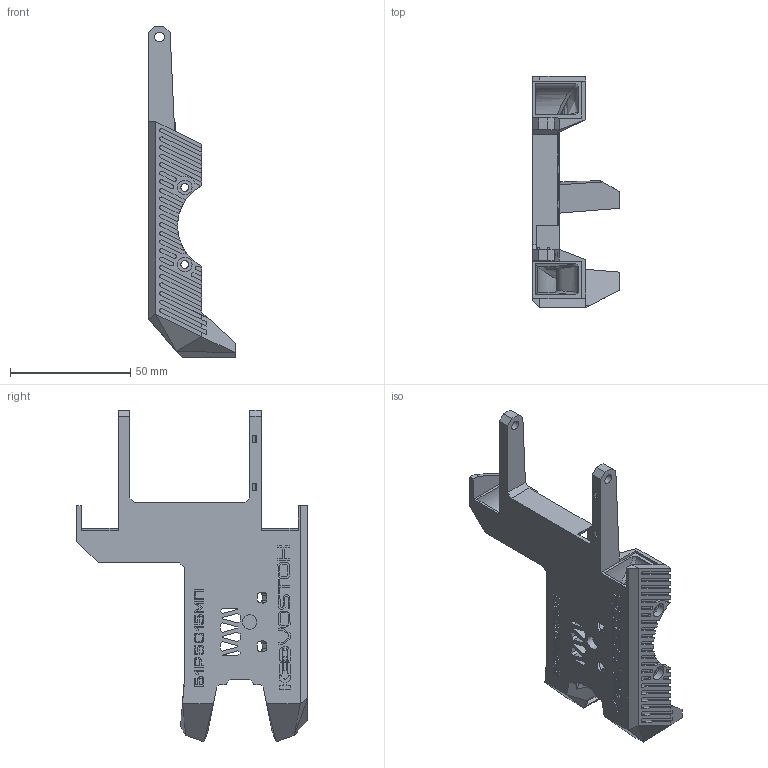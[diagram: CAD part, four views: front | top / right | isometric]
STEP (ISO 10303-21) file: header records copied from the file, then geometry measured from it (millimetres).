
FILE_DESCRIPTION(/* description */ ('CAx-IF Rec.Pracs.---Representation and Presentation of Product Manufacturing Information (PMI)---4.0---2014-10-13','CAx-IF Rec.Pracs.---3D Tessellated Geometry---0.4---2014-09-14','2;1'),/* implementation_level */ '2;1');
FILE_NAME(/* name */ 'B1R5015',/* time_stamp */ '2025-06-14T03:28:49+03:00',/* author */ (''),/* organization */ (''),/* preprocessor_version */ 'ST-DEVELOPER v20',/* originating_system */ 'SIEMENS PLM Software NX2406.6001',/* authorisation */ $);
FILE_SCHEMA (('AP242_MANAGED_MODEL_BASED_3D_ENGINEERING_MIM_LF { 1 0 10303 442 3 1 4 }'));
Length unit declared in the file: millimetre
Products named in the file (1): B1R5015
Bounding box: 36 x 95.85 x 137.62 mm (x, y, z)
Volume: 43310 mm3; surface area: 33274.2 mm2
Topology: 1 solids, 1 shells, 652 faces, 1832 edges, 1209 vertices
Faces by surface type: plane 500, cylinder 100, bspline 49, cone 3
Full cylindrical faces by diameter (mm): 1 x2, 1.8 x2, 3.2 x3, 4 x2, 6 x3
Entity records: 24969 total; most frequent: CARTESIAN_POINT 7156, ORIENTED_EDGE 3620, DIRECTION 2891, EDGE_CURVE 1810, LINE 1241, VECTOR 1241, VERTEX_POINT 1201, AXIS2_PLACEMENT_3D 825
